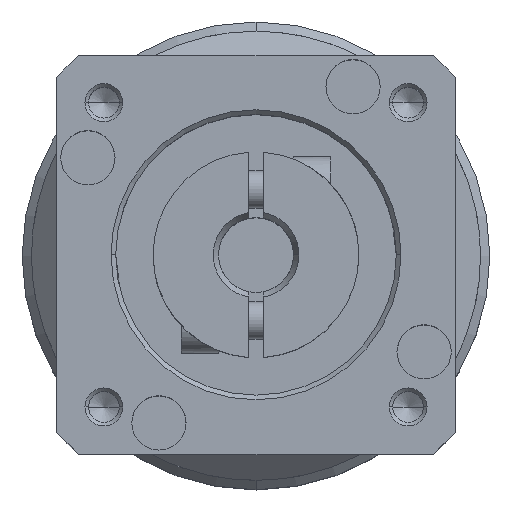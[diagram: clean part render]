
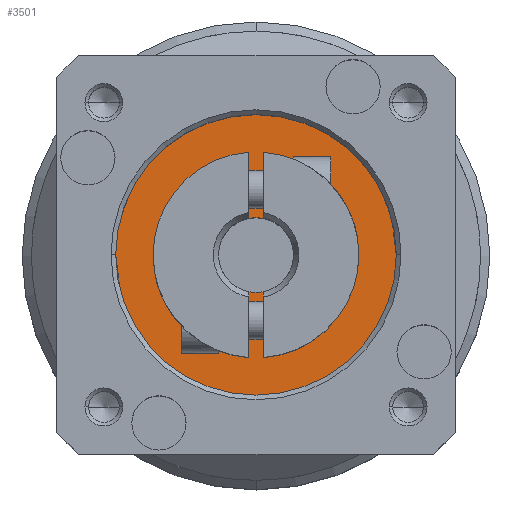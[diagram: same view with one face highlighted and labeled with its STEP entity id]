
A CAD part, top view. The second image highlights one B-rep face of the part: STEP entity #3501.
In plain terms, the highlighted planar face has unit normal (0, 0, 1).
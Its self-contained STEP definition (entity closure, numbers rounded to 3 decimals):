
#151 = VECTOR ( 'NONE', #6300, 1000. ) ;
#209 = EDGE_CURVE ( 'NONE', #917, #7194, #6781, .T. ) ;
#262 = CARTESIAN_POINT ( 'NONE',  ( -11., 0., 16. ) ) ;
#292 = ORIENTED_EDGE ( 'NONE', *, *, #6752, .T. ) ;
#334 = VERTEX_POINT ( 'NONE', #5101 ) ;
#344 = ORIENTED_EDGE ( 'NONE', *, *, #209, .T. ) ;
#359 = VECTOR ( 'NONE', #6633, 1000. ) ;
#414 = EDGE_CURVE ( 'NONE', #4028, #3835, #5512, .T. ) ;
#534 = LINE ( 'NONE', #6639, #359 ) ;
#626 = EDGE_CURVE ( 'NONE', #334, #4871, #1308, .T. ) ;
#729 = EDGE_CURVE ( 'NONE', #2847, #5766, #534, .T. ) ;
#742 = ORIENTED_EDGE ( 'NONE', *, *, #729, .T. ) ;
#811 = ORIENTED_EDGE ( 'NONE', *, *, #2645, .T. ) ;
#894 = ORIENTED_EDGE ( 'NONE', *, *, #6963, .T. ) ;
#917 = VERTEX_POINT ( 'NONE', #7351 ) ;
#955 = EDGE_LOOP ( 'NONE', ( #1985, #4485 ) ) ;
#1270 = CARTESIAN_POINT ( 'NONE',  ( -0.75, -10.974, 16. ) ) ;
#1308 = CIRCLE ( 'NONE', #5121, 15. ) ;
#1357 = CARTESIAN_POINT ( 'NONE',  ( 0.75, -10.974, 16. ) ) ;
#1446 = AXIS2_PLACEMENT_3D ( 'NONE', #7531, #7228, #7242 ) ;
#1540 = VERTEX_POINT ( 'NONE', #1270 ) ;
#1650 = CIRCLE ( 'NONE', #5861, 11. ) ;
#1792 = CARTESIAN_POINT ( 'NONE',  ( -0.75, 3.929, 16. ) ) ;
#1985 = ORIENTED_EDGE ( 'NONE', *, *, #4944, .T. ) ;
#2163 = CIRCLE ( 'NONE', #7142, 4. ) ;
#2235 = EDGE_LOOP ( 'NONE', ( #292, #742, #6941, #6192, #894, #3574, #811, #5158, #344 ) ) ;
#2381 = CARTESIAN_POINT ( 'NONE',  ( 0.75, -3.929, 16. ) ) ;
#2409 = EDGE_CURVE ( 'NONE', #5766, #4028, #2965, .T. ) ;
#2461 = EDGE_CURVE ( 'NONE', #5609, #917, #1650, .T. ) ;
#2472 = AXIS2_PLACEMENT_3D ( 'NONE', #3115, #3065, #3054 ) ;
#2598 = EDGE_CURVE ( 'NONE', #3564, #1540, #4114, .T. ) ;
#2612 = DIRECTION ( 'NONE',  ( 1., 0., 0. ) ) ;
#2614 = DIRECTION ( 'NONE',  ( 0., 0., -1. ) ) ;
#2624 = CARTESIAN_POINT ( 'NONE',  ( 0., 0., 16. ) ) ;
#2645 = EDGE_CURVE ( 'NONE', #1540, #5609, #2988, .T. ) ;
#2830 = AXIS2_PLACEMENT_3D ( 'NONE', #2624, #2614, #2612 ) ;
#2847 = VERTEX_POINT ( 'NONE', #5194 ) ;
#2942 = CARTESIAN_POINT ( 'NONE',  ( -0.75, -3.929, 16. ) ) ;
#2965 = CIRCLE ( 'NONE', #4474, 11. ) ;
#2988 = CIRCLE ( 'NONE', #4551, 11. ) ;
#3054 = DIRECTION ( 'NONE',  ( 1., 0., 0. ) ) ;
#3065 = DIRECTION ( 'NONE',  ( 0., 0., 1. ) ) ;
#3089 = PLANE ( 'NONE',  #2472 ) ;
#3115 = CARTESIAN_POINT ( 'NONE',  ( 0., 0., 16. ) ) ;
#3501 = ADVANCED_FACE ( 'NONE', ( #5651, #3767 ), #3089, .T. ) ;
#3529 = DIRECTION ( 'NONE',  ( 1., 0., 0. ) ) ;
#3540 = DIRECTION ( 'NONE',  ( 0., 0., -1. ) ) ;
#3544 = CARTESIAN_POINT ( 'NONE',  ( 0., 0., 16. ) ) ;
#3564 = VERTEX_POINT ( 'NONE', #2942 ) ;
#3574 = ORIENTED_EDGE ( 'NONE', *, *, #2598, .T. ) ;
#3767 = FACE_BOUND ( 'NONE', #2235, .T. ) ;
#3835 = VERTEX_POINT ( 'NONE', #2381 ) ;
#4028 = VERTEX_POINT ( 'NONE', #1357 ) ;
#4114 = LINE ( 'NONE', #6274, #151 ) ;
#4359 = CIRCLE ( 'NONE', #1446, 15. ) ;
#4474 = AXIS2_PLACEMENT_3D ( 'NONE', #6835, #6826, #6820 ) ;
#4485 = ORIENTED_EDGE ( 'NONE', *, *, #626, .T. ) ;
#4551 = AXIS2_PLACEMENT_3D ( 'NONE', #5954, #5950, #5945 ) ;
#4581 = CARTESIAN_POINT ( 'NONE',  ( -0.75, 0., 16. ) ) ;
#4617 = DIRECTION ( 'NONE',  ( 0., -1., 0. ) ) ;
#4871 = VERTEX_POINT ( 'NONE', #7117 ) ;
#4944 = EDGE_CURVE ( 'NONE', #4871, #334, #4359, .T. ) ;
#5101 = CARTESIAN_POINT ( 'NONE',  ( -15., 0., 16. ) ) ;
#5121 = AXIS2_PLACEMENT_3D ( 'NONE', #6429, #6430, #6441 ) ;
#5158 = ORIENTED_EDGE ( 'NONE', *, *, #2461, .T. ) ;
#5194 = CARTESIAN_POINT ( 'NONE',  ( 0.75, 3.929, 16. ) ) ;
#5387 = CARTESIAN_POINT ( 'NONE',  ( 0.75, 0., 16. ) ) ;
#5399 = DIRECTION ( 'NONE',  ( 0., 1., 0. ) ) ;
#5473 = VECTOR ( 'NONE', #5399, 1000. ) ;
#5512 = LINE ( 'NONE', #5387, #5473 ) ;
#5609 = VERTEX_POINT ( 'NONE', #262 ) ;
#5651 = FACE_OUTER_BOUND ( 'NONE', #955, .T. ) ;
#5766 = VERTEX_POINT ( 'NONE', #7206 ) ;
#5861 = AXIS2_PLACEMENT_3D ( 'NONE', #6657, #6652, #6649 ) ;
#5945 = DIRECTION ( 'NONE',  ( -1., 0., 0. ) ) ;
#5950 = DIRECTION ( 'NONE',  ( 0., 0., -1. ) ) ;
#5954 = CARTESIAN_POINT ( 'NONE',  ( 0., 0., 16. ) ) ;
#6192 = ORIENTED_EDGE ( 'NONE', *, *, #414, .T. ) ;
#6274 = CARTESIAN_POINT ( 'NONE',  ( -0.75, 0., 16. ) ) ;
#6300 = DIRECTION ( 'NONE',  ( 0., -1., 0. ) ) ;
#6429 = CARTESIAN_POINT ( 'NONE',  ( 0., 0., 16. ) ) ;
#6430 = DIRECTION ( 'NONE',  ( 0., 0., 1. ) ) ;
#6441 = DIRECTION ( 'NONE',  ( 1., 0., 0. ) ) ;
#6633 = DIRECTION ( 'NONE',  ( 0., 1., 0. ) ) ;
#6639 = CARTESIAN_POINT ( 'NONE',  ( 0.75, 0., 16. ) ) ;
#6649 = DIRECTION ( 'NONE',  ( -1., 0., 0. ) ) ;
#6652 = DIRECTION ( 'NONE',  ( 0., 0., -1. ) ) ;
#6657 = CARTESIAN_POINT ( 'NONE',  ( 0., 0., 16. ) ) ;
#6752 = EDGE_CURVE ( 'NONE', #7194, #2847, #2163, .T. ) ;
#6781 = LINE ( 'NONE', #4581, #6885 ) ;
#6820 = DIRECTION ( 'NONE',  ( -1., 0., 0. ) ) ;
#6826 = DIRECTION ( 'NONE',  ( 0., 0., -1. ) ) ;
#6835 = CARTESIAN_POINT ( 'NONE',  ( 0., 0., 16. ) ) ;
#6885 = VECTOR ( 'NONE', #4617, 1000. ) ;
#6941 = ORIENTED_EDGE ( 'NONE', *, *, #2409, .T. ) ;
#6963 = EDGE_CURVE ( 'NONE', #3835, #3564, #7014, .T. ) ;
#7014 = CIRCLE ( 'NONE', #2830, 4. ) ;
#7117 = CARTESIAN_POINT ( 'NONE',  ( 15., 0., 16. ) ) ;
#7142 = AXIS2_PLACEMENT_3D ( 'NONE', #3544, #3540, #3529 ) ;
#7194 = VERTEX_POINT ( 'NONE', #1792 ) ;
#7206 = CARTESIAN_POINT ( 'NONE',  ( 0.75, 10.974, 16. ) ) ;
#7228 = DIRECTION ( 'NONE',  ( 0., 0., 1. ) ) ;
#7242 = DIRECTION ( 'NONE',  ( 1., 0., 0. ) ) ;
#7351 = CARTESIAN_POINT ( 'NONE',  ( -0.75, 10.974, 16. ) ) ;
#7531 = CARTESIAN_POINT ( 'NONE',  ( 0., 0., 16. ) ) ;
